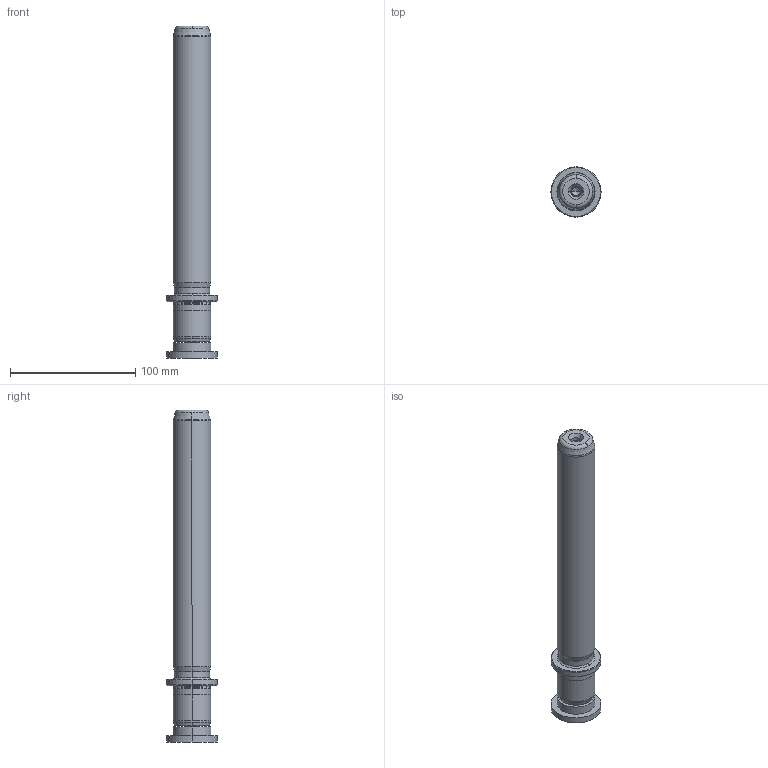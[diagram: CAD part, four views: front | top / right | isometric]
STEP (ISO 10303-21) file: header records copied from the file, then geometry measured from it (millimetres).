
FILE_DESCRIPTION((''),'2;1');
FILE_NAME('P22_030_220.stp','2009-02-03T10:21:42',(''),(''),'Mechanical Desktop 2009','Mechanical Desktop 2009',', , ');
FILE_SCHEMA(('CONFIG_CONTROL_DESIGN'));
Length unit declared in the file: millimetre
Products named in the file (2): Product; blmdl1
Assembly tree (1 placements, depth 2):
  Product
    blmdl1
Bounding box: 40 x 40 x 265 mm (x, y, z)
Volume: 188330 mm3; surface area: 32386 mm2
Topology: 3 solids, 3 shells, 99 faces, 237 edges, 149 vertices
Faces by surface type: cylinder 32, cone 28, plane 19, torus 10, bspline 10
Entity records: 3419 total; most frequent: CARTESIAN_POINT 923, DIRECTION 570, ORIENTED_EDGE 466, AXIS2_PLACEMENT_3D 246, EDGE_CURVE 233, CIRCLE 155, VERTEX_POINT 149, EDGE_LOOP 110
